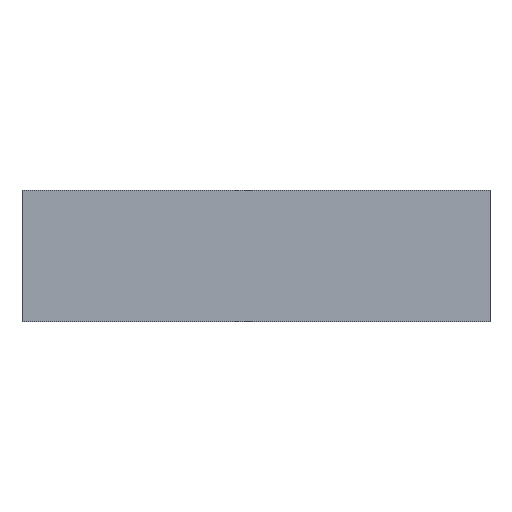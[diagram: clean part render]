
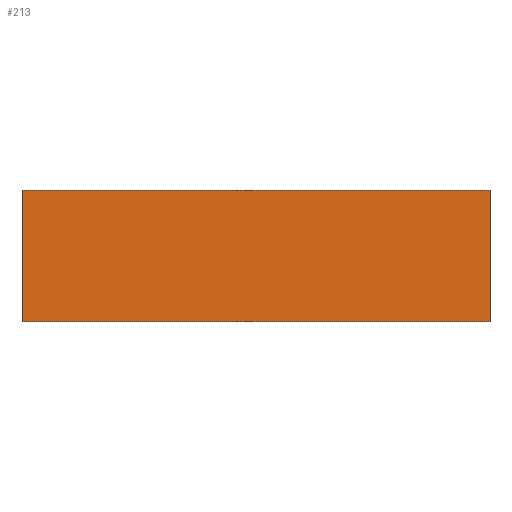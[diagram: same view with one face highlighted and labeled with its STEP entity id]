
A CAD part, top view. The second image highlights one B-rep face of the part: STEP entity #213.
In plain terms, the highlighted planar face has unit normal (0, 0, 1).
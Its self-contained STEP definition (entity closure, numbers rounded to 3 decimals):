
#44 = PLANE('',#45);
#45 = AXIS2_PLACEMENT_3D('',#46,#47,#48);
#46 = CARTESIAN_POINT('',(830.,235.075,5.));
#47 = DIRECTION('',(0.707,-0.,-0.707));
#48 = DIRECTION('',(0.707,0.,0.707));
#72 = PLANE('',#73);
#73 = AXIS2_PLACEMENT_3D('',#74,#75,#76);
#74 = CARTESIAN_POINT('',(0.,470.15,5.03));
#75 = DIRECTION('',(-0.,1.,-0.));
#76 = DIRECTION('',(0.,0.,-1.));
#100 = PLANE('',#101);
#101 = AXIS2_PLACEMENT_3D('',#102,#103,#104);
#102 = CARTESIAN_POINT('',(-830.,235.075,5.));
#103 = DIRECTION('',(-0.707,-0.,-0.707));
#104 = DIRECTION('',(0.707,0.,-0.707));
#126 = PLANE('',#127);
#127 = AXIS2_PLACEMENT_3D('',#128,#129,#130);
#128 = CARTESIAN_POINT('',(0.,0.,5.03));
#129 = DIRECTION('',(0.,-1.,-0.));
#130 = DIRECTION('',(0.,0.,1.));
#143 = VERTEX_POINT('',#144);
#144 = CARTESIAN_POINT('',(-835.,0.,10.));
#165 = EDGE_CURVE('',#166,#143,#168,.T.);
#166 = VERTEX_POINT('',#167);
#167 = CARTESIAN_POINT('',(835.,0.,10.));
#168 = SURFACE_CURVE('',#169,(#173,#180),.PCURVE_S1.);
#169 = LINE('',#170,#171);
#170 = CARTESIAN_POINT('',(835.,0.,10.));
#171 = VECTOR('',#172,1.);
#172 = DIRECTION('',(-1.,-0.,-0.));
#173 = PCURVE('',#126,#174);
#174 = DEFINITIONAL_REPRESENTATION('',(#175),#179);
#175 = LINE('',#176,#177);
#176 = CARTESIAN_POINT('',(4.97,-835.));
#177 = VECTOR('',#178,1.);
#178 = DIRECTION('',(-0.,1.));
#179 = ( GEOMETRIC_REPRESENTATION_CONTEXT(2) 
PARAMETRIC_REPRESENTATION_CONTEXT() REPRESENTATION_CONTEXT('2D SPACE',''
  ) );
#180 = PCURVE('',#181,#186);
#181 = PLANE('',#182);
#182 = AXIS2_PLACEMENT_3D('',#183,#184,#185);
#183 = CARTESIAN_POINT('',(0.,235.075,10.));
#184 = DIRECTION('',(-0.,-0.,1.));
#185 = DIRECTION('',(1.,0.,0.));
#186 = DEFINITIONAL_REPRESENTATION('',(#187),#191);
#187 = LINE('',#188,#189);
#188 = CARTESIAN_POINT('',(835.,-235.075));
#189 = VECTOR('',#190,1.);
#190 = DIRECTION('',(-1.,0.));
#191 = ( GEOMETRIC_REPRESENTATION_CONTEXT(2) 
PARAMETRIC_REPRESENTATION_CONTEXT() REPRESENTATION_CONTEXT('2D SPACE',''
  ) );
#213 = ADVANCED_FACE('',(#214),#181,.T.);
#214 = FACE_BOUND('',#215,.F.);
#215 = EDGE_LOOP('',(#216,#217,#240,#263));
#216 = ORIENTED_EDGE('',*,*,#165,.T.);
#217 = ORIENTED_EDGE('',*,*,#218,.T.);
#218 = EDGE_CURVE('',#143,#219,#221,.T.);
#219 = VERTEX_POINT('',#220);
#220 = CARTESIAN_POINT('',(-835.,470.15,10.));
#221 = SURFACE_CURVE('',#222,(#226,#233),.PCURVE_S1.);
#222 = LINE('',#223,#224);
#223 = CARTESIAN_POINT('',(-835.,0.,10.));
#224 = VECTOR('',#225,1.);
#225 = DIRECTION('',(-0.,1.,-0.));
#226 = PCURVE('',#181,#227);
#227 = DEFINITIONAL_REPRESENTATION('',(#228),#232);
#228 = LINE('',#229,#230);
#229 = CARTESIAN_POINT('',(-835.,-235.075));
#230 = VECTOR('',#231,1.);
#231 = DIRECTION('',(-0.,1.));
#232 = ( GEOMETRIC_REPRESENTATION_CONTEXT(2) 
PARAMETRIC_REPRESENTATION_CONTEXT() REPRESENTATION_CONTEXT('2D SPACE',''
  ) );
#233 = PCURVE('',#100,#234);
#234 = DEFINITIONAL_REPRESENTATION('',(#235),#239);
#235 = LINE('',#236,#237);
#236 = CARTESIAN_POINT('',(-7.071,235.075));
#237 = VECTOR('',#238,1.);
#238 = DIRECTION('',(-0.,-1.));
#239 = ( GEOMETRIC_REPRESENTATION_CONTEXT(2) 
PARAMETRIC_REPRESENTATION_CONTEXT() REPRESENTATION_CONTEXT('2D SPACE',''
  ) );
#240 = ORIENTED_EDGE('',*,*,#241,.T.);
#241 = EDGE_CURVE('',#219,#242,#244,.T.);
#242 = VERTEX_POINT('',#243);
#243 = CARTESIAN_POINT('',(835.,470.15,10.));
#244 = SURFACE_CURVE('',#245,(#249,#256),.PCURVE_S1.);
#245 = LINE('',#246,#247);
#246 = CARTESIAN_POINT('',(-835.,470.15,10.));
#247 = VECTOR('',#248,1.);
#248 = DIRECTION('',(1.,-0.,-0.));
#249 = PCURVE('',#181,#250);
#250 = DEFINITIONAL_REPRESENTATION('',(#251),#255);
#251 = LINE('',#252,#253);
#252 = CARTESIAN_POINT('',(-835.,235.075));
#253 = VECTOR('',#254,1.);
#254 = DIRECTION('',(1.,-0.));
#255 = ( GEOMETRIC_REPRESENTATION_CONTEXT(2) 
PARAMETRIC_REPRESENTATION_CONTEXT() REPRESENTATION_CONTEXT('2D SPACE',''
  ) );
#256 = PCURVE('',#72,#257);
#257 = DEFINITIONAL_REPRESENTATION('',(#258),#262);
#258 = LINE('',#259,#260);
#259 = CARTESIAN_POINT('',(-4.97,835.));
#260 = VECTOR('',#261,1.);
#261 = DIRECTION('',(-0.,-1.));
#262 = ( GEOMETRIC_REPRESENTATION_CONTEXT(2) 
PARAMETRIC_REPRESENTATION_CONTEXT() REPRESENTATION_CONTEXT('2D SPACE',''
  ) );
#263 = ORIENTED_EDGE('',*,*,#264,.T.);
#264 = EDGE_CURVE('',#242,#166,#265,.T.);
#265 = SURFACE_CURVE('',#266,(#270,#277),.PCURVE_S1.);
#266 = LINE('',#267,#268);
#267 = CARTESIAN_POINT('',(835.,470.15,10.));
#268 = VECTOR('',#269,1.);
#269 = DIRECTION('',(-0.,-1.,-0.));
#270 = PCURVE('',#181,#271);
#271 = DEFINITIONAL_REPRESENTATION('',(#272),#276);
#272 = LINE('',#273,#274);
#273 = CARTESIAN_POINT('',(835.,235.075));
#274 = VECTOR('',#275,1.);
#275 = DIRECTION('',(-0.,-1.));
#276 = ( GEOMETRIC_REPRESENTATION_CONTEXT(2) 
PARAMETRIC_REPRESENTATION_CONTEXT() REPRESENTATION_CONTEXT('2D SPACE',''
  ) );
#277 = PCURVE('',#44,#278);
#278 = DEFINITIONAL_REPRESENTATION('',(#279),#283);
#279 = LINE('',#280,#281);
#280 = CARTESIAN_POINT('',(7.071,-235.075));
#281 = VECTOR('',#282,1.);
#282 = DIRECTION('',(-0.,1.));
#283 = ( GEOMETRIC_REPRESENTATION_CONTEXT(2) 
PARAMETRIC_REPRESENTATION_CONTEXT() REPRESENTATION_CONTEXT('2D SPACE',''
  ) );
